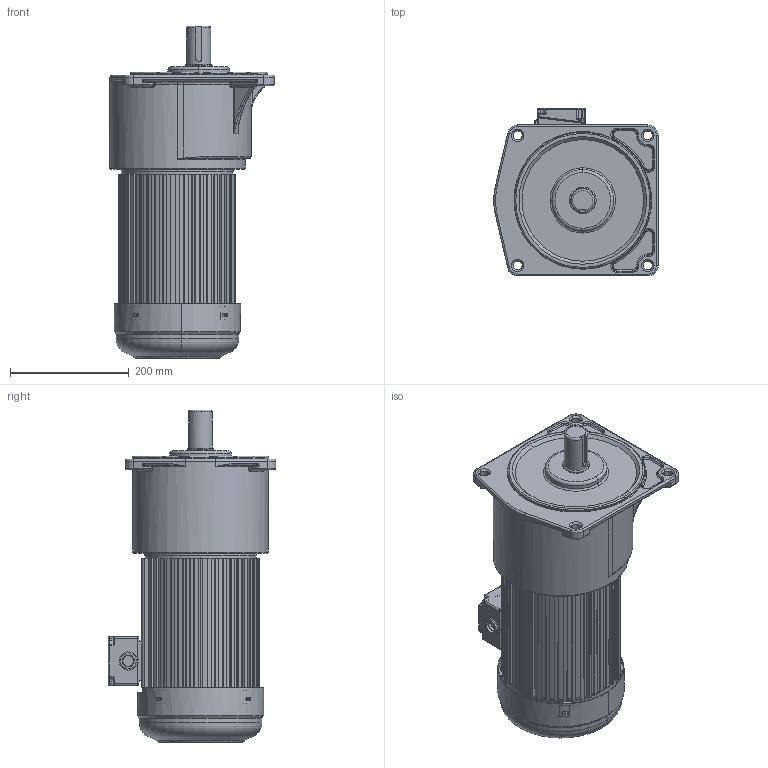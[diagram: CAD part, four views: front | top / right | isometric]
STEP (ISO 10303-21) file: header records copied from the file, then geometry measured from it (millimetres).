
FILE_DESCRIPTION(('HOOPS Exchange Step'),'2;1');
FILE_NAME('D:/conver/TZT.New3D002/output/52aa9dd2-8ec6-4d60-9831-0d6f523288a3/ZVN3700-S(Z)B-3K-12.5K(15K-100K)(50轴）.step','2026-07-28T23:01:09+08:00',('SYSTEM'),('Unknown organisation'),'HOOPS Exchange 2024.3','HOOPS Exchange','Unknown authorisation');
FILE_SCHEMA( ('AP203_CONFIGURATION_CONTROLLED_3D_DESIGN_OF_MECHANICAL_PARTS_AND_ASSEMBLIES_MIM_LF') );
Length unit declared in the file: millimetre
Products named in the file (1): AdmiE513rs3d
Bounding box: 277.1 x 283.1 x 559.5 mm (x, y, z)
Volume: 15042654.3 mm3; surface area: 809657.3 mm2
Topology: 1 solids, 2 shells, 1853 faces, 5149 edges, 3295 vertices
Faces by surface type: plane 915, cylinder 644, torus 129, bspline 108, cone 38, sphere 19
Full cylindrical faces by diameter (mm): 40 x1, 45 x1, 180.5 x1, 228 x1
Entity records: 66835 total; most frequent: CARTESIAN_POINT 19019, ORIENTED_EDGE 10228, DIRECTION 9643, EDGE_CURVE 5114, VERTEX_POINT 3295, VECTOR 3245, LINE 3245, AXIS2_PLACEMENT_3D 3199
